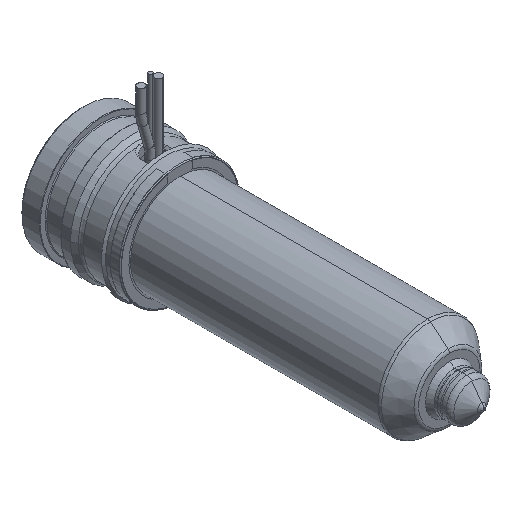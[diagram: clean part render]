
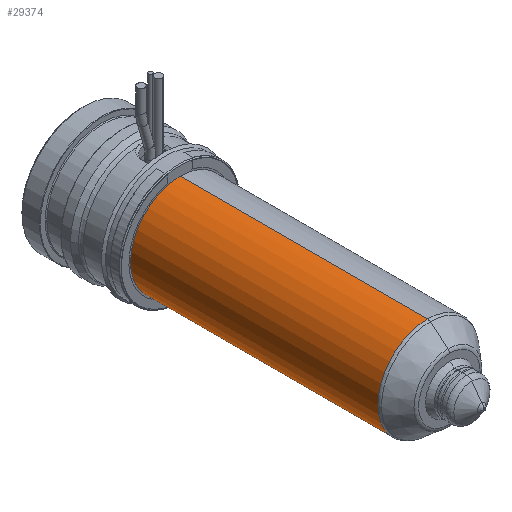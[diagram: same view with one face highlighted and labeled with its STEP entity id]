
A CAD part, isometric view. The second image highlights one B-rep face of the part: STEP entity #29374.
In plain terms, the highlighted cylindrical face has radius 12 mm (diameter 24 mm), a partial arc.
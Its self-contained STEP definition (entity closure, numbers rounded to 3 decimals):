
#28859=CARTESIAN_POINT('',(0.,-24.,0.));
#28860=DIRECTION('',(0.,1.,0.));
#28861=DIRECTION('',(0.,0.,-1.));
#28862=AXIS2_PLACEMENT_3D('',#28859,#28860,#28861);
#28867=DIRECTION('',(0.,1.,0.));
#28868=VECTOR('',#28867,59.736);
#28869=CARTESIAN_POINT('',(0.,-83.736,12.));
#28870=LINE('',#28869,#28868);
#28882=DIRECTION('',(0.,1.,0.));
#28883=VECTOR('',#28882,59.736);
#28884=CARTESIAN_POINT('',(0.,-83.736,-12.));
#28885=LINE('',#28884,#28883);
#28913=CARTESIAN_POINT('',(0.,-83.736,0.));
#28914=DIRECTION('',(0.,-1.,0.));
#28915=DIRECTION('',(0.,0.,1.));
#28916=AXIS2_PLACEMENT_3D('',#28913,#28914,#28915);
#29243=CARTESIAN_POINT('',(0.,-83.736,12.));
#29244=CARTESIAN_POINT('',(0.,-24.,12.));
#29245=VERTEX_POINT('',#29243);
#29246=VERTEX_POINT('',#29244);
#29247=CARTESIAN_POINT('',(0.,-83.736,-12.));
#29248=CARTESIAN_POINT('',(0.,-24.,-12.));
#29249=VERTEX_POINT('',#29247);
#29250=VERTEX_POINT('',#29248);
#29360=CARTESIAN_POINT('',(0.,-16.125,0.));
#29361=DIRECTION('',(0.,-1.,0.));
#29362=DIRECTION('',(0.,0.,1.));
#29363=AXIS2_PLACEMENT_3D('',#29360,#29361,#29362);
#29364=CYLINDRICAL_SURFACE('',#29363,12.);
#29366=ORIENTED_EDGE('',*,*,#29365,.F.);
#29368=ORIENTED_EDGE('',*,*,#29367,.T.);
#29370=ORIENTED_EDGE('',*,*,#29369,.T.);
#29371=ORIENTED_EDGE('',*,*,#29353,.T.);
#29372=EDGE_LOOP('',(#29366,#29368,#29370,#29371));
#29373=FACE_OUTER_BOUND('',#29372,.F.);
#29374=ADVANCED_FACE('',(#29373),#29364,.T.);
#28863=CIRCLE('',#28862,12.);
#28917=CIRCLE('',#28916,12.);
#29353=EDGE_CURVE('',#29250,#29246,#28863,.T.);
#29365=EDGE_CURVE('',#29245,#29246,#28870,.T.);
#29367=EDGE_CURVE('',#29245,#29249,#28917,.T.);
#29369=EDGE_CURVE('',#29249,#29250,#28885,.T.);
